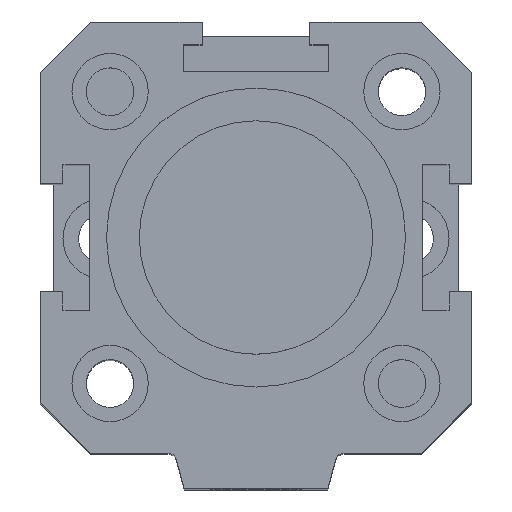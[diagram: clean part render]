
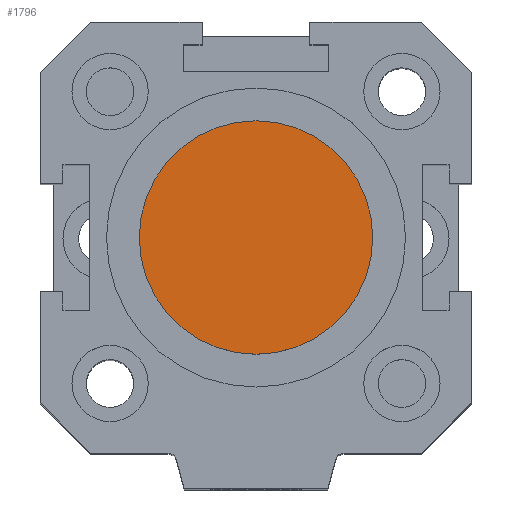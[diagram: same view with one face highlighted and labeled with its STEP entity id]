
A CAD part, top view. The second image highlights one B-rep face of the part: STEP entity #1796.
In plain terms, the highlighted planar face has unit normal (0, 0, 1).
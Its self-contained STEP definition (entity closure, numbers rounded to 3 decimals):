
#373=PLANE('',#1961);
#550=FACE_OUTER_BOUND('',#705,.T.);
#705=EDGE_LOOP('',(#1437));
#814=CIRCLE('',#1881,13.);
#890=VERTEX_POINT('',#2609);
#1060=EDGE_CURVE('',#890,#890,#814,.T.);
#1437=ORIENTED_EDGE('',*,*,#1060,.T.);
#1796=ADVANCED_FACE('',(#550),#373,.T.);
#1881=AXIS2_PLACEMENT_3D('',#2610,#2083,#2084);
#1961=AXIS2_PLACEMENT_3D('',#2876,#2315,#2316);
#2083=DIRECTION('center_axis',(0.,0.,1.));
#2084=DIRECTION('ref_axis',(-1.,0.,0.));
#2315=DIRECTION('center_axis',(0.,0.,1.));
#2316=DIRECTION('ref_axis',(1.,0.,0.));
#2609=CARTESIAN_POINT('',(13.,0.,33.5));
#2610=CARTESIAN_POINT('Origin',(0.,0.,33.5));
#2876=CARTESIAN_POINT('Origin',(0.,0.555,
33.5));
